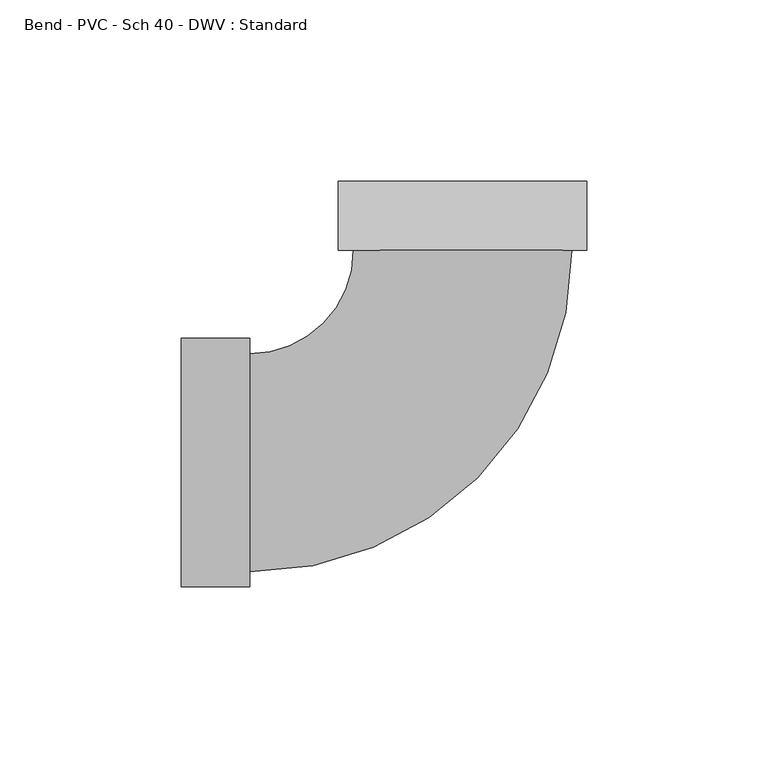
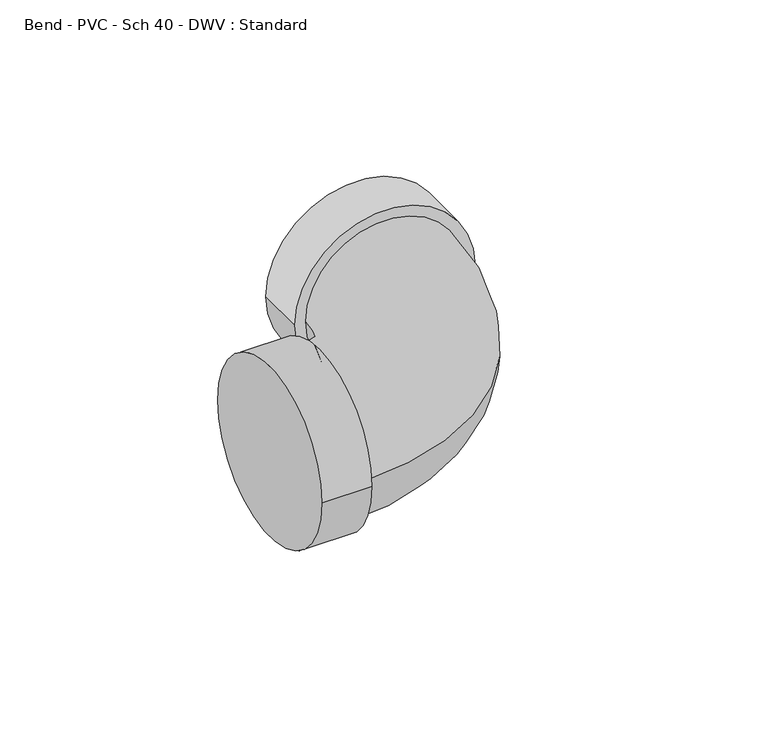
"""IFC4 building model written with IfcOpenShell, lengths in millimetres: pipe fitting geometry, Bend - PVC - Sch 40 - DWV : Standard."""

import ifcopenshell
import ifcopenshell.guid

model = None  # the IFC model being written
_history = None  # IfcOwnerHistory: only IFC2X3 demands one
_inside = {}  # id of a spatial element -> (the spatial element, [elements in it])
_under = {}  # id of a project, library or spatial element -> (it, [spatial elements below it])
_declared = {}  # id of a project -> (the project, [libraries it declares])
_typed = {}  # id of a type object -> (the type object, [elements of that type])
_made_of = {}  # id of a material, layer set ... -> (it, [elements and type objects made of it])


def new_model(schema):
    """Start an empty IFC model of exactly this schema.

    Asked for "IFC4X3", IfcOpenShell would pick the latest addendum, in which some entities
    have other attributes; the version numbers below select the first issue.
    IFC2X3 requires an IfcOwnerHistory on every rooted entity: one is made here for all.
    """
    global model, _history
    if schema == "IFC4X3":
        model = ifcopenshell.file(schema_version=(4, 3, 0, 0))
    else:
        model = ifcopenshell.file(schema=schema)
    _inside.clear()
    _under.clear()
    _declared.clear()
    _typed.clear()
    _made_of.clear()
    _history = None
    if model.schema == "IFC2X3":
        org = make("IfcOrganization", Name="unknown")
        user = make(
            "IfcPersonAndOrganization",
            ThePerson=make("IfcPerson", FamilyName="unknown"),
            TheOrganization=org,
        )
        app = make(
            "IfcApplication",
            ApplicationDeveloper=org,
            Version="unknown",
            ApplicationFullName="unknown",
            ApplicationIdentifier="unknown",
        )
        _history = make(
            "IfcOwnerHistory",
            OwningUser=user,
            OwningApplication=app,
            ChangeAction="ADDED",
            CreationDate=0,
        )
    return model


def make(cls, **values):
    """One entity of the class cls with the attributes given. An attribute that is None is left unset."""
    return model.create_entity(
        cls, **{name: value for name, value in values.items() if value is not None}
    )


def rooted(cls, **values):
    """An entity with a GlobalId (a new one), such as an element, a storey or a relation."""
    return make(cls, GlobalId=ifcopenshell.guid.new(), OwnerHistory=_history, **values)


def si_unit(unit_type, name, prefix=None):
    """IfcSIUnit, for example si_unit("LENGTHUNIT", "METRE", prefix="MILLI")."""
    return make("IfcSIUnit", UnitType=unit_type, Prefix=prefix, Name=name)


def assignment(units):
    """IfcUnitAssignment: the units of a project."""
    return None if units is None else make("IfcUnitAssignment", Units=units)


def point(xyz):
    """IfcCartesianPoint."""
    return None if xyz is None else make("IfcCartesianPoint", Coordinates=xyz)


def direction(xyz):
    """IfcDirection."""
    return None if xyz is None else make("IfcDirection", DirectionRatios=xyz)


def frame(location, z_axis=None, x_axis=None):
    """IfcAxis2Placement3D, a coordinate frame: its origin and axes. An axis left out is left unset."""
    return make(
        "IfcAxis2Placement3D",
        Location=point(location),
        Axis=direction(z_axis),
        RefDirection=direction(x_axis),
    )


def origin():
    """The frame at (0, 0, 0) with its axes left unset."""
    return frame((0.0, 0.0, 0.0))


def place(relative_to, where):
    """IfcLocalPlacement: puts the frame where relative to a parent placement (None: the world)."""
    return make(
        "IfcLocalPlacement", PlacementRelTo=relative_to, RelativePlacement=where
    )


def context(
    kind, dimensions, precision=None, world=None, true_north=None, identifier=None
):
    """IfcGeometricRepresentationContext, for example the 3D "Model" context."""
    return make(
        "IfcGeometricRepresentationContext",
        ContextIdentifier=identifier,
        ContextType=kind,
        CoordinateSpaceDimension=dimensions,
        Precision=precision,
        WorldCoordinateSystem=world,
        TrueNorth=true_north,
    )


def project(units=None, contexts=None):
    """IfcProject with its units and contexts."""
    return rooted(
        "IfcProject",
        Name="project",
        RepresentationContexts=contexts,
        UnitsInContext=assignment(units),
    )


def spatial(cls, under=None, at=None, **own):
    """A site, building, storey or space (cls), placed at a placement, below another one or the project."""
    s = rooted(cls, ObjectPlacement=at, **own)
    if under is not None:
        _under.setdefault(under.id(), (under, []))[1].append(s)
    return s


def circle_curve(where, radius):
    """IfcCircle in the frame where."""
    return make("IfcCircle", Position=where, Radius=radius)


def ellipse_curve(where, semi_axis1, semi_axis2):
    """IfcEllipse in the frame where."""
    return make(
        "IfcEllipse", Position=where, SemiAxis1=semi_axis1, SemiAxis2=semi_axis2
    )


def trimmed(basis, trim1, trim2, sense, master):
    """IfcTrimmedCurve: the piece of a basis curve between two trims."""
    return make(
        "IfcTrimmedCurve",
        BasisCurve=basis,
        Trim1=trim1,
        Trim2=trim2,
        SenseAgreement=sense,
        MasterRepresentation=master,
    )


def shape(context_of_items, identifier, shape_type, items):
    """IfcShapeRepresentation: the items that make up one representation, for example the "Body"."""
    return make(
        "IfcShapeRepresentation",
        ContextOfItems=context_of_items,
        RepresentationIdentifier=identifier,
        RepresentationType=shape_type,
        Items=items,
    )


def source(mapping_origin, context_of_items, identifier, shape_type, items):
    """IfcRepresentationMap: a shape defined once, which mapped items show again and again."""
    return make(
        "IfcRepresentationMap",
        MappingOrigin=mapping_origin,
        MappedRepresentation=shape(context_of_items, identifier, shape_type, items),
    )


def transform(
    local_origin,
    x_axis=None,
    y_axis=None,
    z_axis=None,
    scale=None,
    scale2=None,
    scale3=None,
    uniform=True,
):
    """IfcCartesianTransformationOperator3D, or its non-uniform kind. x_axis, y_axis, z_axis: its Axis1, 2, 3."""
    if uniform:
        return make(
            "IfcCartesianTransformationOperator3D",
            Axis1=direction(x_axis),
            Axis2=direction(y_axis),
            LocalOrigin=point(local_origin),
            Scale=scale,
            Axis3=direction(z_axis),
        )
    return make(
        "IfcCartesianTransformationOperator3DnonUniform",
        Axis1=direction(x_axis),
        Axis2=direction(y_axis),
        LocalOrigin=point(local_origin),
        Scale=scale,
        Axis3=direction(z_axis),
        Scale2=scale2,
        Scale3=scale3,
    )


def mapped(mapping_source, mapping_target):
    """IfcMappedItem: shows the shape of a source again, moved by a transform."""
    return make(
        "IfcMappedItem", MappingSource=mapping_source, MappingTarget=mapping_target
    )


def made_of(thing, what):
    """Note that an element or type object is made of a material, layer set ...; save() writes the relation."""
    if what is not None:
        _made_of.setdefault(what.id(), (what, []))[1].append(thing)
    return thing


def element(
    cls,
    number,
    at=None,
    inside=None,
    cuts=None,
    type_object=None,
    material=None,
    context=None,
    identifier="Body",
    shape_type=None,
    held_by="IfcProductDefinitionShape",
    body=None,
    shapes=None,
    **own,
):
    """One element of the class cls, such as IfcWall. Its Tag is "e" and its number.

    at: its placement. inside: the storey or other place that contains it. cuts: it is an
    opening in that element (IfcRelVoidsElement). A single representation is given by context,
    identifier, shape_type and body (its items); several are given by shapes. held_by: the class
    of the entity that holds the representations. save() writes the other relations.
    """
    e = rooted(cls, Tag="e%d" % number, ObjectPlacement=at, **own)
    if body is not None:
        shapes = [shape(context, identifier, shape_type, body)]
    if shapes is not None:
        e.Representation = make(held_by, Representations=shapes)
    if inside is not None:
        _inside.setdefault(inside.id(), (inside, []))[1].append(e)
    if cuts is not None:
        rooted(
            "IfcRelVoidsElement", RelatingBuildingElement=cuts, RelatedOpeningElement=e
        )
    if type_object is not None:
        _typed.setdefault(type_object.id(), (type_object, []))[1].append(e)
    return made_of(e, material)


def aggregate(whole, parts):
    """IfcRelAggregates: a whole, such as a stair, and the parts it consists of."""
    return rooted("IfcRelAggregates", RelatingObject=whole, RelatedObjects=parts)


def save(model, path):
    """Write the relations noted so far, then the file.

    IfcRelAggregates (storeys below a building ...), IfcRelContainedInSpatialStructure (elements
    in a storey), IfcRelDefinesByType, IfcRelAssociatesMaterial and IfcRelDeclares: one each for
    every whole, place, type object, material and project.
    """
    for whole, parts in _under.values():
        aggregate(whole, parts)
    for where, things in _inside.values():
        rooted(
            "IfcRelContainedInSpatialStructure",
            RelatedElements=things,
            RelatingStructure=where,
        )
    for kind, things in _typed.values():
        rooted("IfcRelDefinesByType", RelatedObjects=things, RelatingType=kind)
    for what, things in _made_of.values():
        rooted("IfcRelAssociatesMaterial", RelatedObjects=things, RelatingMaterial=what)
    for by, libraries in _declared.values():
        rooted("IfcRelDeclares", RelatingContext=by, RelatedDefinitions=libraries)
    model.write(path)


def plane_surface(at):
    """IfcPlane: the flat surface through the origin of the frame at, square to its z axis."""
    return make("IfcPlane", Position=at)


def cylinder_surface(at, radius):
    """IfcCylindricalSurface: all points at the distance radius from the z axis of the frame at."""
    return make("IfcCylindricalSurface", Position=at, Radius=radius)


def revolved_surface(curve, axis_point, axis_direction):
    """IfcSurfaceOfRevolution: the curve turned about the line through axis_point along axis_direction."""
    return make(
        "IfcSurfaceOfRevolution",
        SweptCurve=make("IfcArbitraryOpenProfileDef", ProfileType="CURVE", Curve=curve),
        AxisPosition=make("IfcAxis1Placement", Location=point(axis_point), Axis=direction(axis_direction)),
    )


def advanced_brep(points, edges, surfaces, faces):
    """IfcAdvancedBrep: a solid bounded by faces that lie on surfaces and meet in shared edges.

    An edge is (start, end): straight between two places in points (the first is 0);
    or (start, end, curve); or (start, end, curve, False) where it runs against its curve.
    A face is (place in surfaces, loops), or (place, loops, False) where it looks against
    its surface's normal. A loop lists edges by number (the first is 1), with a minus sign
    where the edge is run from its end to its start. The first loop is the outer one.
    """
    corners = [point(p) for p in points]
    vertices = [make("IfcVertexPoint", VertexGeometry=c) for c in corners]
    made = []
    for start, end, *more in edges:
        made.append(
            make(
                "IfcEdgeCurve",
                EdgeStart=vertices[start],
                EdgeEnd=vertices[end],
                EdgeGeometry=more[0] if more else make("IfcPolyline", Points=[corners[start], corners[end]]),
                SameSense=more[1] if len(more) > 1 else True,
            )
        )
    hull = []
    for where, loops, *sense in faces:
        bounds = []
        for j, loop in enumerate(loops):
            ring = [make("IfcOrientedEdge", EdgeElement=made[abs(k) - 1], Orientation=k > 0) for k in loop]
            bounds.append(
                make(
                    "IfcFaceOuterBound" if j == 0 else "IfcFaceBound",
                    Bound=make("IfcEdgeLoop", EdgeList=ring),
                    Orientation=True,
                )
            )
        hull.append(make("IfcAdvancedFace", Bounds=bounds, FaceSurface=surfaces[where], SameSense=sense[0] if sense else True))
    return make("IfcAdvancedBrep", Outer=make("IfcClosedShell", CfsFaces=hull))


def bend_pvc_sch_40_dwv_standard_f86c0bbe(model_context):
    return source(origin(), model_context, "Body", "AdvancedBrep", [
        advanced_brep(
        [(-77.8002, -34.3154, 0.0), (-77.8002, 34.3154, 0.0), (-58.7502, -34.3154, 0.0), (-58.7502, 34.3154, 0.0), (-58.7502, -30.1625, 0.0), (-58.7502, 30.1625, 0.0), (-30.1631098, 58.7498869, 0.0), (30.1618902, 58.7505131, 0.0), (34.3147902, 58.7505562, 0.0), (-34.3160098, 58.7498438, 0.0), (34.3145925, 77.8005562, 0.0), (-34.3162075, 77.7998438, 0.0)],
        [
            (0, 1, circle_curve(frame((-77.8002, 0.0, 0.0), z_axis=(-1.0, 0.0, 0.0), x_axis=(0.0, 1.0, 0.0)), 34.3154)),
            (1, 0, circle_curve(frame((-77.8002, 0.0, 0.0), z_axis=(-1.0, 0.0, 0.0), x_axis=(0.0, 1.0, 0.0)), 34.3154)),
            (2, 3, circle_curve(frame((-58.7502, 0.0, 0.0), z_axis=(1.0, 0.0, 0.0), x_axis=(0.0, 1.0, 0.0)), 34.3154)),
            (3, 2, circle_curve(frame((-58.7502, 0.0, 0.0), z_axis=(1.0, 0.0, 0.0), x_axis=(0.0, 1.0, 0.0)), 34.3154)),
            (4, 5, circle_curve(frame((-58.7502, 0.0, 0.0), z_axis=(-1.0, 0.0, 0.0), x_axis=(0.0, 1.0, 0.0)), 30.1625)),
            (5, 4, circle_curve(frame((-58.7502, 0.0, 0.0), z_axis=(-1.0, 0.0, 0.0), x_axis=(0.0, 1.0, 0.0)), 30.1625)),
            (0, 2),
            (3, 1),
            (6, 5, circle_curve(frame((-58.7502, 58.7495902, 0.0), z_axis=(0.0, 0.0, -1.0), x_axis=(0.0, -1.0, 0.0)), 28.5870902)),
            (4, 7, circle_curve(frame((-58.7502, 58.7495902, 0.0), z_axis=(0.0, 0.0, 1.0), x_axis=(0.0, -1.0, 0.0)), 88.9120902)),
            (7, 6, circle_curve(frame((-0.0006098, 58.7502, 0.0), z_axis=(1.0379367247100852e-05, -0.9999999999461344, 0.0), x_axis=(-0.9999999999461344, -1.0379367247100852e-05, 0.0)), 30.1625)),
            (6, 7, circle_curve(frame((-0.0006098, 58.7502, 0.0), z_axis=(1.0379367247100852e-05, -0.9999999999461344, 0.0), x_axis=(-0.9999999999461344, -1.0379367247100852e-05, 0.0)), 30.1625)),
            (8, 9, circle_curve(frame((-0.0006098, 58.7502, 0.0), z_axis=(1.0379367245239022e-05, -0.9999999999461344, 0.0), x_axis=(-0.9999999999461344, -1.0379367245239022e-05, 0.0)), 34.3154)),
            (9, 8, circle_curve(frame((-0.0006098, 58.7502, 0.0), z_axis=(1.0379367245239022e-05, -0.9999999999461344, 0.0), x_axis=(-0.9999999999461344, -1.0379367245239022e-05, 0.0)), 34.3154)),
            (10, 11, circle_curve(frame((-0.0008075, 77.8002, 0.0), z_axis=(-1.0379367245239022e-05, 0.9999999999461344, 0.0), x_axis=(-0.9999999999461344, -1.0379367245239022e-05, 0.0)), 34.3154)),
            (11, 10, circle_curve(frame((-0.0008075, 77.8002, 0.0), z_axis=(-1.0379367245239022e-05, 0.9999999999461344, 0.0), x_axis=(-0.9999999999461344, -1.0379367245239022e-05, 0.0)), 34.3154)),
            (8, 10),
            (11, 9),
        ],
        [
            plane_surface(frame((-77.8002, 0.0, 0.0), z_axis=(-1.0, 0.0, 0.0), x_axis=(0.0, 0.0, 1.0))),
            plane_surface(frame((-58.7502, 0.0, 0.0), z_axis=(1.0, 0.0, 0.0), x_axis=(0.0, 0.0, 1.0))),
            cylinder_surface(frame((-77.8002, 0.0, 0.0), z_axis=(-1.0, 0.0, 0.0), x_axis=(0.0, 1.0, 0.0)), 34.3154),
            revolved_surface(trimmed(ellipse_curve(frame((-58.7502, 0.0, 0.0), z_axis=(-1.0, 0.0, 0.0), x_axis=(0.0, 1.0, 0.0)), 30.1625, 30.1625), [point((-58.7502, -30.1625, 0.0))], [point((-58.7502, 30.1625, 0.0))], True, "CARTESIAN"), (-58.7502, 58.7495902, 0.0), (0.0, 0.0, 1.0)),
            revolved_surface(trimmed(ellipse_curve(frame((-58.7502, 0.0, 0.0), z_axis=(-1.0, 0.0, 0.0), x_axis=(0.0, 1.0, 0.0)), 30.1625, 30.1625), [point((-58.7502, 30.1625, 0.0))], [point((-58.7502, -30.1625, 0.0))], True, "CARTESIAN"), (-58.7502, 58.7495902, 0.0), (0.0, 0.0, 1.0)),
            plane_surface(frame((-0.0006098, 58.7502, 0.0), z_axis=(1.0379367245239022e-05, -0.9999999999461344, 0.0), x_axis=(0.0, 0.0, 1.0))),
            plane_surface(frame((-0.0008075, 77.8002, 0.0), z_axis=(-1.0379367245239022e-05, 0.9999999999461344, 0.0), x_axis=(0.0, 0.0, 1.0))),
            cylinder_surface(frame((-0.0006098, 58.7502, 0.0), z_axis=(1.0379367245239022e-05, -0.9999999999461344, 0.0), x_axis=(-0.9999999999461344, -1.0379367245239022e-05, 0.0)), 34.3154),
        ],
        [
            (0, [[1, 2]]),
            (1, [[3, 4], [5, 6]]),
            (2, [[-1, 7, -4, 8]]),
            (2, [[-2, -8, -3, -7]]),
            (3, [[9, -5, 10, 11]]),
            (4, [[-9, 12, -10, -6]]),
            (5, [[13, 14], [-11, -12]]),
            (6, [[15, 16]]),
            (7, [[-13, 17, -16, 18]]),
            (7, [[-14, -18, -15, -17]]),
        ],
    ),
    ])


if __name__ == "__main__":
    model = new_model("IFC4")
    model_context = context("Model", 3, world=origin())
    ifc_project = project(units=[si_unit("LENGTHUNIT", "METRE", prefix="MILLI")], contexts=[model_context])
    site = spatial("IfcSite", under=ifc_project)
    building = spatial("IfcBuilding", under=site)
    placement = place(None, origin())
    bend_pvc_sch_40_dwv_standard_shape = bend_pvc_sch_40_dwv_standard_f86c0bbe(model_context)
    element("IfcPipeFitting", 1, ObjectType="Bend - PVC - Sch 40 - DWV : Standard", at=placement, inside=building, context=model_context, shape_type="MappedRepresentation", body=[
        mapped(bend_pvc_sch_40_dwv_standard_shape, transform((0.0, 0.0, 0.0), x_axis=(1.0, 0.0, 0.0), y_axis=(0.0, 1.0, 0.0), z_axis=(0.0, 0.0, 1.0))),
    ])
    save(model, "model.ifc")
